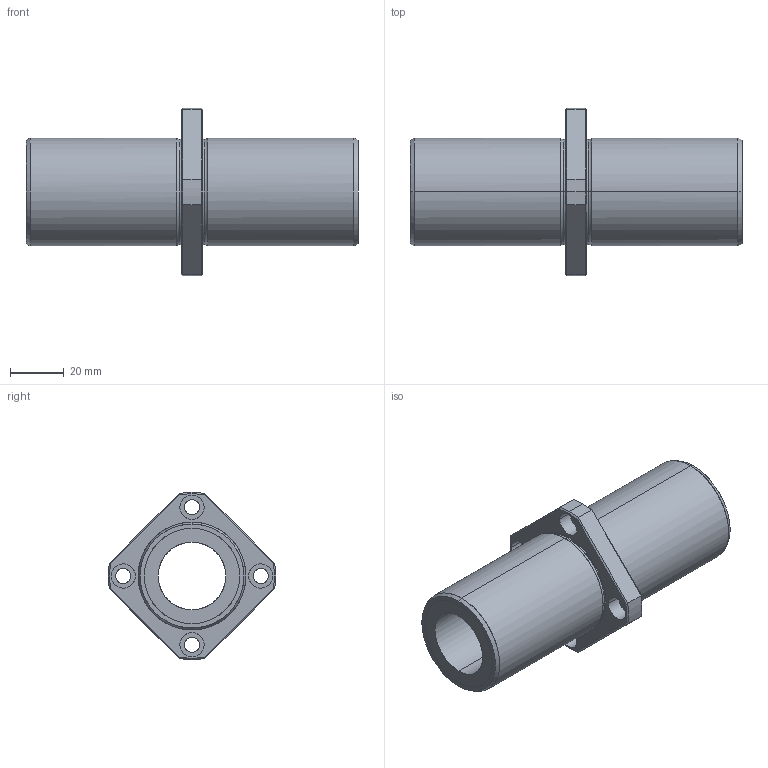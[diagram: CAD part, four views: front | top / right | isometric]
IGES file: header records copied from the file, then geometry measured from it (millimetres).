
Global section: file name: No Iges File Name specified; native system: AutoDesk Inventor R10; preprocessor: AutoDesk Inventor Iges Exporter R10; author: No Author specified; organization: No Organization specified; date: 20101216.153607; units: millimetre
Bounding box: 123 x 61.92 x 62 mm (x, y, z)
Surface area: 29927.3 mm2 (no closed solid volume)
Topology: 0 solids, 0 shells, 78 faces, 472 edges, 472 vertices
Faces by surface type: bspline 78
